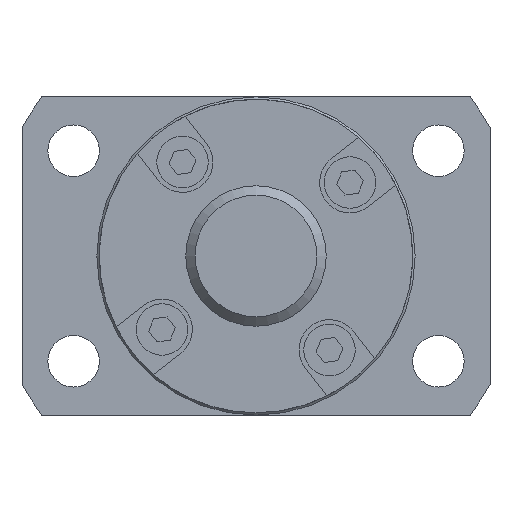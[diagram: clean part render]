
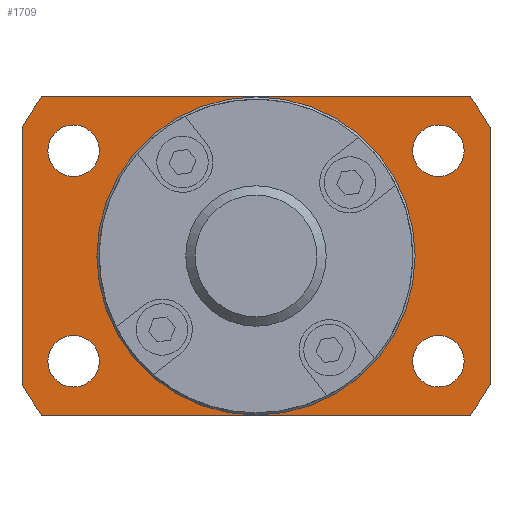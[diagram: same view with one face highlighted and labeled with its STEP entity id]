
A CAD part, left-side view. The second image highlights one B-rep face of the part: STEP entity #1709.
In plain terms, the highlighted planar face has unit normal (-1, 0, 0).
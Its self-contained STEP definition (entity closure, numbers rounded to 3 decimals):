
#99=CIRCLE('',#1878,2.75);
#100=CIRCLE('',#1879,2.75);
#101=CIRCLE('',#1880,2.75);
#102=CIRCLE('',#1881,2.75);
#103=CIRCLE('',#1882,16.75);
#104=CIRCLE('',#1883,28.5);
#105=CIRCLE('',#1884,28.5);
#106=CIRCLE('',#1885,28.5);
#107=CIRCLE('',#1886,28.5);
#255=ORIENTED_EDGE('',*,*,#664,.T.);
#256=ORIENTED_EDGE('',*,*,#665,.T.);
#257=ORIENTED_EDGE('',*,*,#666,.T.);
#258=ORIENTED_EDGE('',*,*,#667,.T.);
#259=ORIENTED_EDGE('',*,*,#668,.T.);
#260=ORIENTED_EDGE('',*,*,#669,.F.);
#261=ORIENTED_EDGE('',*,*,#670,.F.);
#262=ORIENTED_EDGE('',*,*,#671,.F.);
#263=ORIENTED_EDGE('',*,*,#672,.F.);
#264=ORIENTED_EDGE('',*,*,#673,.F.);
#265=ORIENTED_EDGE('',*,*,#674,.F.);
#266=ORIENTED_EDGE('',*,*,#675,.F.);
#267=ORIENTED_EDGE('',*,*,#676,.F.);
#664=EDGE_CURVE('',#877,#877,#99,.T.);
#665=EDGE_CURVE('',#878,#878,#100,.T.);
#666=EDGE_CURVE('',#879,#879,#101,.T.);
#667=EDGE_CURVE('',#880,#880,#102,.T.);
#668=EDGE_CURVE('',#881,#881,#103,.T.);
#669=EDGE_CURVE('',#882,#883,#104,.T.);
#670=EDGE_CURVE('',#884,#882,#1020,.T.);
#671=EDGE_CURVE('',#885,#884,#105,.T.);
#672=EDGE_CURVE('',#886,#885,#1021,.T.);
#673=EDGE_CURVE('',#887,#886,#106,.T.);
#674=EDGE_CURVE('',#888,#887,#1022,.T.);
#675=EDGE_CURVE('',#889,#888,#107,.T.);
#676=EDGE_CURVE('',#883,#889,#1023,.T.);
#877=VERTEX_POINT('',#2725);
#878=VERTEX_POINT('',#2727);
#879=VERTEX_POINT('',#2729);
#880=VERTEX_POINT('',#2731);
#881=VERTEX_POINT('',#2733);
#882=VERTEX_POINT('',#2735);
#883=VERTEX_POINT('',#2736);
#884=VERTEX_POINT('',#2738);
#885=VERTEX_POINT('',#2740);
#886=VERTEX_POINT('',#2742);
#887=VERTEX_POINT('',#2744);
#888=VERTEX_POINT('',#2746);
#889=VERTEX_POINT('',#2748);
#1020=LINE('',#2737,#1154);
#1021=LINE('',#2741,#1155);
#1022=LINE('',#2745,#1156);
#1023=LINE('',#2749,#1157);
#1154=VECTOR('',#2187,1000.);
#1155=VECTOR('',#2190,1000.);
#1156=VECTOR('',#2193,1000.);
#1157=VECTOR('',#2196,1000.);
#1299=EDGE_LOOP('',(#255));
#1300=EDGE_LOOP('',(#256));
#1301=EDGE_LOOP('',(#257));
#1302=EDGE_LOOP('',(#258));
#1303=EDGE_LOOP('',(#259));
#1304=EDGE_LOOP('',(#260,#261,#262,#263,#264,#265,#266,#267));
#1477=FACE_BOUND('',#1299,.T.);
#1478=FACE_BOUND('',#1300,.T.);
#1479=FACE_BOUND('',#1301,.T.);
#1480=FACE_BOUND('',#1302,.T.);
#1481=FACE_BOUND('',#1303,.T.);
#1482=FACE_BOUND('',#1304,.T.);
#1625=PLANE('',#1877);
#1709=ADVANCED_FACE('',(#1477,#1478,#1479,#1480,#1481,#1482),#1625,.F.);
#1877=AXIS2_PLACEMENT_3D('',#2723,#2173,#2174);
#1878=AXIS2_PLACEMENT_3D('',#2724,#2175,#2176);
#1879=AXIS2_PLACEMENT_3D('',#2726,#2177,#2178);
#1880=AXIS2_PLACEMENT_3D('',#2728,#2179,#2180);
#1881=AXIS2_PLACEMENT_3D('',#2730,#2181,#2182);
#1882=AXIS2_PLACEMENT_3D('',#2732,#2183,#2184);
#1883=AXIS2_PLACEMENT_3D('',#2734,#2185,#2186);
#1884=AXIS2_PLACEMENT_3D('',#2739,#2188,#2189);
#1885=AXIS2_PLACEMENT_3D('',#2743,#2191,#2192);
#1886=AXIS2_PLACEMENT_3D('',#2747,#2194,#2195);
#2173=DIRECTION('',(1.,0.,0.));
#2174=DIRECTION('',(0.,0.,-1.));
#2175=DIRECTION('',(1.,0.,0.));
#2176=DIRECTION('',(0.,0.,-1.));
#2177=DIRECTION('',(1.,0.,0.));
#2178=DIRECTION('',(0.,0.,-1.));
#2179=DIRECTION('',(1.,0.,0.));
#2180=DIRECTION('',(0.,0.,-1.));
#2181=DIRECTION('',(1.,0.,0.));
#2182=DIRECTION('',(0.,0.,-1.));
#2183=DIRECTION('',(1.,0.,0.));
#2184=DIRECTION('',(0.,0.,-1.));
#2185=DIRECTION('',(1.,0.,0.));
#2186=DIRECTION('',(0.,0.,-1.));
#2187=DIRECTION('',(0.,-1.,0.));
#2188=DIRECTION('',(1.,0.,0.));
#2189=DIRECTION('',(0.,0.,-1.));
#2190=DIRECTION('',(0.,0.,1.));
#2191=DIRECTION('',(1.,0.,0.));
#2192=DIRECTION('',(0.,0.,-1.));
#2193=DIRECTION('',(0.,1.,0.));
#2194=DIRECTION('',(1.,0.,0.));
#2195=DIRECTION('',(0.,0.,-1.));
#2196=DIRECTION('',(0.,0.,-1.));
#2723=CARTESIAN_POINT('',(28.5,16.75,0.));
#2724=CARTESIAN_POINT('',(28.5,19.486,-11.25));
#2725=CARTESIAN_POINT('',(28.5,19.486,-14.));
#2726=CARTESIAN_POINT('',(28.5,-19.486,11.25));
#2727=CARTESIAN_POINT('',(28.5,-19.486,8.5));
#2728=CARTESIAN_POINT('',(28.5,-19.486,-11.25));
#2729=CARTESIAN_POINT('',(28.5,-19.486,-14.));
#2730=CARTESIAN_POINT('',(28.5,19.486,11.25));
#2731=CARTESIAN_POINT('',(28.5,19.486,8.5));
#2732=CARTESIAN_POINT('',(28.5,0.,0.));
#2733=CARTESIAN_POINT('',(28.5,0.,-16.75));
#2734=CARTESIAN_POINT('',(28.5,0.,0.));
#2735=CARTESIAN_POINT('',(28.5,-22.875,17.));
#2736=CARTESIAN_POINT('',(28.5,-25.,13.684));
#2737=CARTESIAN_POINT('',(28.5,22.875,17.));
#2738=CARTESIAN_POINT('',(28.5,22.875,17.));
#2739=CARTESIAN_POINT('',(28.5,0.,0.));
#2740=CARTESIAN_POINT('',(28.5,25.,13.684));
#2741=CARTESIAN_POINT('',(28.5,25.,-13.684));
#2742=CARTESIAN_POINT('',(28.5,25.,-13.684));
#2743=CARTESIAN_POINT('',(28.5,0.,0.));
#2744=CARTESIAN_POINT('',(28.5,22.875,-17.));
#2745=CARTESIAN_POINT('',(28.5,-22.875,-17.));
#2746=CARTESIAN_POINT('',(28.5,-22.875,-17.));
#2747=CARTESIAN_POINT('',(28.5,0.,0.));
#2748=CARTESIAN_POINT('',(28.5,-25.,-13.684));
#2749=CARTESIAN_POINT('',(28.5,-25.,13.684));
